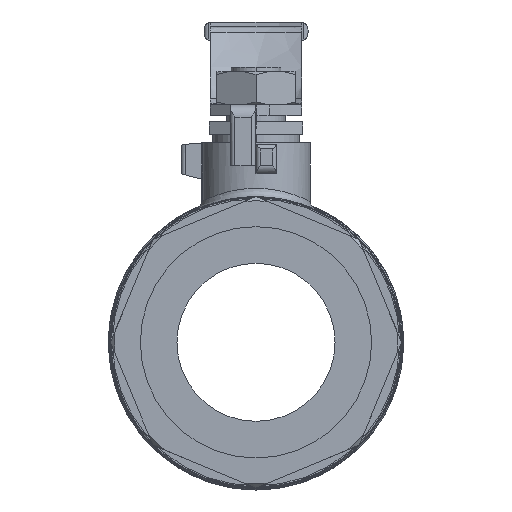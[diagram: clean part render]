
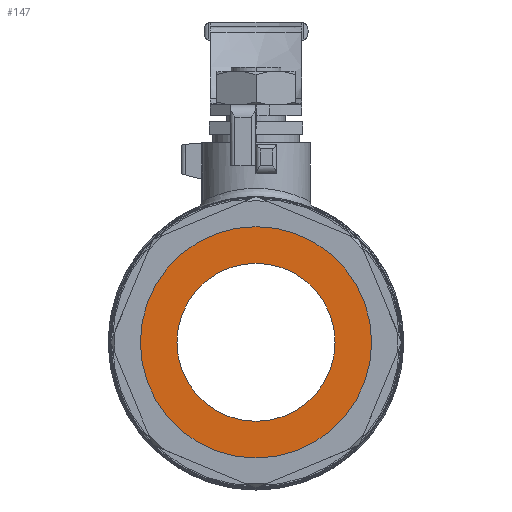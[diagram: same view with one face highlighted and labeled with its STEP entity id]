
A CAD part, left-side view. The second image highlights one B-rep face of the part: STEP entity #147.
In plain terms, the highlighted planar face has unit normal (-1, 0, 0).
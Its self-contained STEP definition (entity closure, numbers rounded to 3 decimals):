
#147=ADVANCED_FACE('',(#1309,#1310),#1308,.T.);
#1308=PLANE('',#3133);
#1309=FACE_OUTER_BOUND('',#3134,.T.);
#1310=FACE_BOUND('',#3135,.T.);
#3130=CARTESIAN_POINT('',(-31.,-57.781,-63.94));
#3131=DIRECTION('',(-1.,0.,0.));
#3132=DIRECTION('',(0.,0.,1.));
#3133=AXIS2_PLACEMENT_3D('',#3130,#3131,#3132);
#3134=EDGE_LOOP('',(#4393,#4394));
#3135=EDGE_LOOP('',(#4395,#4396));
#4393=ORIENTED_EDGE('',*,*,#5208,.F.);
#4394=ORIENTED_EDGE('',*,*,#5209,.F.);
#4395=ORIENTED_EDGE('',*,*,#5210,.F.);
#4396=ORIENTED_EDGE('',*,*,#5211,.F.);
#5208=EDGE_CURVE('',#7864,#7865,#7866,.T.);
#5209=EDGE_CURVE('',#7865,#7864,#7872,.T.);
#5210=EDGE_CURVE('',#7878,#7879,#7880,.T.);
#5211=EDGE_CURVE('',#7879,#7878,#7886,.T.);
#7864=VERTEX_POINT('',#10674);
#7865=VERTEX_POINT('',#10675);
#7866=CIRCLE('',#10679,27.8);
#7872=CIRCLE('',#10683,27.8);
#7878=VERTEX_POINT('',#10684);
#7879=VERTEX_POINT('',#10685);
#7880=CIRCLE('',#10689,19.);
#7886=CIRCLE('',#10693,19.);
#10674=CARTESIAN_POINT('',(-31.,0.,-27.8));
#10675=CARTESIAN_POINT('',(-31.,0.,27.8));
#10676=CARTESIAN_POINT('',(-31.,0.,0.));
#10677=DIRECTION('',(1.,0.,0.));
#10678=DIRECTION('',(0.,0.,1.));
#10679=AXIS2_PLACEMENT_3D('',#10676,#10677,#10678);
#10680=CARTESIAN_POINT('',(-31.,0.,0.));
#10681=DIRECTION('',(1.,0.,0.));
#10682=DIRECTION('',(0.,0.,1.));
#10683=AXIS2_PLACEMENT_3D('',#10680,#10681,#10682);
#10684=CARTESIAN_POINT('',(-31.,0.,-19.));
#10685=CARTESIAN_POINT('',(-31.,0.,19.));
#10686=CARTESIAN_POINT('',(-31.,0.,0.));
#10687=DIRECTION('',(-1.,0.,0.));
#10688=DIRECTION('',(0.,0.,1.));
#10689=AXIS2_PLACEMENT_3D('',#10686,#10687,#10688);
#10690=CARTESIAN_POINT('',(-31.,0.,0.));
#10691=DIRECTION('',(-1.,0.,0.));
#10692=DIRECTION('',(0.,0.,1.));
#10693=AXIS2_PLACEMENT_3D('',#10690,#10691,#10692);
